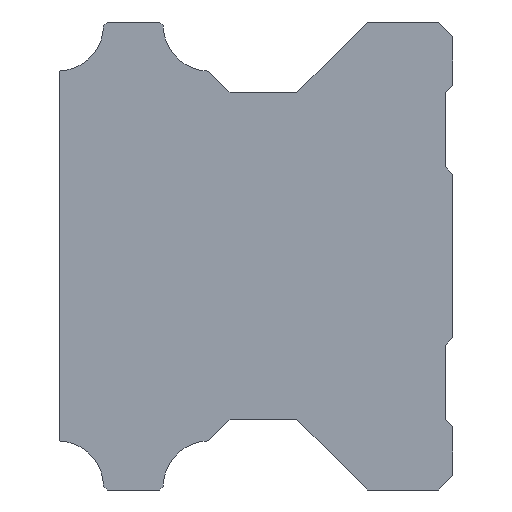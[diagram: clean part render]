
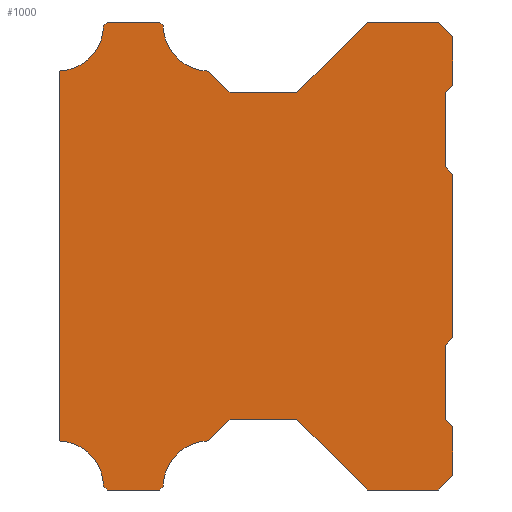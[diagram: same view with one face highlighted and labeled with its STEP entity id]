
A CAD part, left-side view. The second image highlights one B-rep face of the part: STEP entity #1000.
In plain terms, the highlighted planar face has unit normal (-1, 0, 0).
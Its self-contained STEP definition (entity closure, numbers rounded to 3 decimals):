
#51=CIRCLE('',#1067,6.19);
#53=CIRCLE('',#1073,6.19);
#64=CIRCLE('',#1086,6.19);
#66=CIRCLE('',#1092,6.19);
#254=ORIENTED_EDGE('',*,*,#338,.F.);
#255=ORIENTED_EDGE('',*,*,#444,.F.);
#256=ORIENTED_EDGE('',*,*,#441,.F.);
#257=ORIENTED_EDGE('',*,*,#438,.F.);
#258=ORIENTED_EDGE('',*,*,#435,.T.);
#259=ORIENTED_EDGE('',*,*,#432,.F.);
#260=ORIENTED_EDGE('',*,*,#429,.F.);
#261=ORIENTED_EDGE('',*,*,#426,.F.);
#262=ORIENTED_EDGE('',*,*,#423,.T.);
#263=ORIENTED_EDGE('',*,*,#420,.F.);
#264=ORIENTED_EDGE('',*,*,#408,.T.);
#265=ORIENTED_EDGE('',*,*,#405,.F.);
#266=ORIENTED_EDGE('',*,*,#402,.F.);
#267=ORIENTED_EDGE('',*,*,#399,.F.);
#268=ORIENTED_EDGE('',*,*,#396,.T.);
#269=ORIENTED_EDGE('',*,*,#393,.F.);
#270=ORIENTED_EDGE('',*,*,#390,.F.);
#271=ORIENTED_EDGE('',*,*,#387,.F.);
#272=ORIENTED_EDGE('',*,*,#384,.F.);
#273=ORIENTED_EDGE('',*,*,#381,.F.);
#274=ORIENTED_EDGE('',*,*,#378,.F.);
#275=ORIENTED_EDGE('',*,*,#375,.F.);
#276=ORIENTED_EDGE('',*,*,#372,.F.);
#277=ORIENTED_EDGE('',*,*,#369,.F.);
#278=ORIENTED_EDGE('',*,*,#366,.F.);
#279=ORIENTED_EDGE('',*,*,#354,.F.);
#280=ORIENTED_EDGE('',*,*,#351,.F.);
#281=ORIENTED_EDGE('',*,*,#348,.F.);
#282=ORIENTED_EDGE('',*,*,#345,.F.);
#283=ORIENTED_EDGE('',*,*,#342,.F.);
#338=EDGE_CURVE('',#464,#465,#560,.T.);
#342=EDGE_CURVE('',#465,#468,#564,.T.);
#345=EDGE_CURVE('',#468,#470,#567,.T.);
#348=EDGE_CURVE('',#470,#472,#570,.T.);
#351=EDGE_CURVE('',#472,#474,#573,.T.);
#354=EDGE_CURVE('',#474,#476,#576,.T.);
#366=EDGE_CURVE('',#476,#487,#579,.T.);
#369=EDGE_CURVE('',#487,#489,#582,.T.);
#372=EDGE_CURVE('',#489,#491,#585,.T.);
#375=EDGE_CURVE('',#491,#493,#588,.T.);
#378=EDGE_CURVE('',#493,#495,#591,.T.);
#381=EDGE_CURVE('',#495,#497,#594,.T.);
#384=EDGE_CURVE('',#497,#499,#597,.T.);
#387=EDGE_CURVE('',#499,#501,#600,.T.);
#390=EDGE_CURVE('',#501,#503,#603,.T.);
#393=EDGE_CURVE('',#503,#505,#606,.T.);
#396=EDGE_CURVE('',#507,#505,#51,.T.);
#399=EDGE_CURVE('',#507,#509,#610,.T.);
#402=EDGE_CURVE('',#509,#511,#613,.T.);
#405=EDGE_CURVE('',#511,#513,#616,.T.);
#408=EDGE_CURVE('',#515,#513,#53,.T.);
#420=EDGE_CURVE('',#515,#526,#620,.T.);
#423=EDGE_CURVE('',#528,#526,#64,.T.);
#426=EDGE_CURVE('',#528,#530,#624,.T.);
#429=EDGE_CURVE('',#530,#532,#627,.T.);
#432=EDGE_CURVE('',#532,#534,#630,.T.);
#435=EDGE_CURVE('',#536,#534,#66,.T.);
#438=EDGE_CURVE('',#536,#538,#634,.T.);
#441=EDGE_CURVE('',#538,#540,#637,.T.);
#444=EDGE_CURVE('',#540,#464,#640,.T.);
#464=VERTEX_POINT('',#1437);
#465=VERTEX_POINT('',#1438);
#468=VERTEX_POINT('',#1446);
#470=VERTEX_POINT('',#1452);
#472=VERTEX_POINT('',#1458);
#474=VERTEX_POINT('',#1464);
#476=VERTEX_POINT('',#1470);
#487=VERTEX_POINT('',#1494);
#489=VERTEX_POINT('',#1500);
#491=VERTEX_POINT('',#1506);
#493=VERTEX_POINT('',#1512);
#495=VERTEX_POINT('',#1518);
#497=VERTEX_POINT('',#1524);
#499=VERTEX_POINT('',#1530);
#501=VERTEX_POINT('',#1536);
#503=VERTEX_POINT('',#1542);
#505=VERTEX_POINT('',#1548);
#507=VERTEX_POINT('',#1554);
#509=VERTEX_POINT('',#1560);
#511=VERTEX_POINT('',#1566);
#513=VERTEX_POINT('',#1572);
#515=VERTEX_POINT('',#1578);
#526=VERTEX_POINT('',#1602);
#528=VERTEX_POINT('',#1608);
#530=VERTEX_POINT('',#1614);
#532=VERTEX_POINT('',#1620);
#534=VERTEX_POINT('',#1626);
#536=VERTEX_POINT('',#1632);
#538=VERTEX_POINT('',#1638);
#540=VERTEX_POINT('',#1644);
#560=LINE('',#1436,#642);
#564=LINE('',#1445,#646);
#567=LINE('',#1451,#649);
#570=LINE('',#1457,#652);
#573=LINE('',#1463,#655);
#576=LINE('',#1469,#658);
#579=LINE('',#1493,#661);
#582=LINE('',#1499,#664);
#585=LINE('',#1505,#667);
#588=LINE('',#1511,#670);
#591=LINE('',#1517,#673);
#594=LINE('',#1523,#676);
#597=LINE('',#1529,#679);
#600=LINE('',#1535,#682);
#603=LINE('',#1541,#685);
#606=LINE('',#1547,#688);
#610=LINE('',#1559,#692);
#613=LINE('',#1565,#695);
#616=LINE('',#1571,#698);
#620=LINE('',#1601,#702);
#624=LINE('',#1613,#706);
#627=LINE('',#1619,#709);
#630=LINE('',#1625,#712);
#634=LINE('',#1637,#716);
#637=LINE('',#1643,#719);
#640=LINE('',#1649,#722);
#642=VECTOR('',#1148,1000.);
#646=VECTOR('',#1154,1000.);
#649=VECTOR('',#1159,1000.);
#652=VECTOR('',#1164,1000.);
#655=VECTOR('',#1169,1000.);
#658=VECTOR('',#1174,1000.);
#661=VECTOR('',#1197,1000.);
#664=VECTOR('',#1202,1000.);
#667=VECTOR('',#1207,1000.);
#670=VECTOR('',#1212,1000.);
#673=VECTOR('',#1217,1000.);
#676=VECTOR('',#1222,1000.);
#679=VECTOR('',#1227,1000.);
#682=VECTOR('',#1232,1000.);
#685=VECTOR('',#1237,1000.);
#688=VECTOR('',#1242,1000.);
#692=VECTOR('',#1254,1000.);
#695=VECTOR('',#1259,1000.);
#698=VECTOR('',#1264,1000.);
#702=VECTOR('',#1294,1000.);
#706=VECTOR('',#1306,1000.);
#709=VECTOR('',#1311,1000.);
#712=VECTOR('',#1316,1000.);
#716=VECTOR('',#1328,1000.);
#719=VECTOR('',#1333,1000.);
#722=VECTOR('',#1338,1000.);
#773=EDGE_LOOP('',(#254,#255,#256,#257,#258,#259,#260,#261,#262,#263,#264,
#265,#266,#267,#268,#269,#270,#271,#272,#273,#274,#275,#276,#277,#278,#279,
#280,#281,#282,#283));
#877=FACE_BOUND('',#773,.T.);
#959=PLANE('',#1098);
#1000=ADVANCED_FACE('',(#877),#959,.F.);
#1067=AXIS2_PLACEMENT_3D('',#1553,#1247,#1248);
#1073=AXIS2_PLACEMENT_3D('',#1577,#1269,#1270);
#1086=AXIS2_PLACEMENT_3D('',#1607,#1299,#1300);
#1092=AXIS2_PLACEMENT_3D('',#1631,#1321,#1322);
#1098=AXIS2_PLACEMENT_3D('',#1652,#1342,#1343);
#1148=DIRECTION('',(0.,-1.,0.));
#1154=DIRECTION('',(0.,-0.707,-0.707));
#1159=DIRECTION('',(0.,0.,-1.));
#1164=DIRECTION('',(0.,0.707,-0.707));
#1169=DIRECTION('',(0.,0.,-1.));
#1174=DIRECTION('',(0.,-0.707,-0.707));
#1197=DIRECTION('',(0.,0.,-1.));
#1202=DIRECTION('',(0.,0.707,-0.707));
#1207=DIRECTION('',(0.,0.,-1.));
#1212=DIRECTION('',(0.,-0.707,-0.707));
#1217=DIRECTION('',(0.,0.,-1.));
#1222=DIRECTION('',(0.,0.707,-0.707));
#1227=DIRECTION('',(0.,1.,0.));
#1232=DIRECTION('',(0.,0.707,0.707));
#1237=DIRECTION('',(0.,1.,0.));
#1242=DIRECTION('',(0.,0.707,-0.707));
#1247=DIRECTION('',(1.,0.,0.));
#1248=DIRECTION('',(0.,0.,-1.));
#1254=DIRECTION('',(0.,0.707,-0.707));
#1259=DIRECTION('',(0.,1.,0.));
#1264=DIRECTION('',(0.,0.707,0.707));
#1269=DIRECTION('',(1.,0.,0.));
#1270=DIRECTION('',(0.,0.,-1.));
#1294=DIRECTION('',(0.,0.,1.));
#1299=DIRECTION('',(1.,0.,0.));
#1300=DIRECTION('',(0.,0.,-1.));
#1306=DIRECTION('',(0.,-0.707,0.707));
#1311=DIRECTION('',(0.,-1.,0.));
#1316=DIRECTION('',(0.,-0.707,-0.707));
#1321=DIRECTION('',(1.,0.,0.));
#1322=DIRECTION('',(0.,0.,-1.));
#1328=DIRECTION('',(0.,-0.707,-0.707));
#1333=DIRECTION('',(0.,-1.,0.));
#1338=DIRECTION('',(0.,-0.707,0.707));
#1342=DIRECTION('',(1.,0.,0.));
#1343=DIRECTION('',(0.,0.,-1.));
#1436=CARTESIAN_POINT('',(-35.,11.501,31.5));
#1437=CARTESIAN_POINT('',(-35.,11.501,31.5));
#1438=CARTESIAN_POINT('',(-35.,2.,31.5));
#1445=CARTESIAN_POINT('',(-35.,2.,31.5));
#1446=CARTESIAN_POINT('',(-35.,0.,29.5));
#1451=CARTESIAN_POINT('',(-35.,0.,29.5));
#1452=CARTESIAN_POINT('',(-35.,0.,23.));
#1457=CARTESIAN_POINT('',(-35.,0.,23.));
#1458=CARTESIAN_POINT('',(-35.,1.,22.));
#1463=CARTESIAN_POINT('',(-35.,1.,22.));
#1464=CARTESIAN_POINT('',(-35.,1.,12.));
#1469=CARTESIAN_POINT('',(-35.,1.,12.));
#1470=CARTESIAN_POINT('',(-35.,0.,11.));
#1493=CARTESIAN_POINT('',(-35.,0.,11.));
#1494=CARTESIAN_POINT('',(-35.,0.,-11.));
#1499=CARTESIAN_POINT('',(-35.,0.,-11.));
#1500=CARTESIAN_POINT('',(-35.,1.,-12.));
#1505=CARTESIAN_POINT('',(-35.,1.,-12.));
#1506=CARTESIAN_POINT('',(-35.,1.,-22.));
#1511=CARTESIAN_POINT('',(-35.,1.,-22.));
#1512=CARTESIAN_POINT('',(-35.,0.,-23.));
#1517=CARTESIAN_POINT('',(-35.,0.,-23.));
#1518=CARTESIAN_POINT('',(-35.,0.,-29.5));
#1523=CARTESIAN_POINT('',(-35.,0.,-29.5));
#1524=CARTESIAN_POINT('',(-35.,2.,-31.5));
#1529=CARTESIAN_POINT('',(-35.,2.,-31.5));
#1530=CARTESIAN_POINT('',(-35.,11.501,-31.5));
#1535=CARTESIAN_POINT('',(-35.,11.501,-31.5));
#1536=CARTESIAN_POINT('',(-35.,21.,-22.));
#1541=CARTESIAN_POINT('',(-35.,21.,-22.));
#1542=CARTESIAN_POINT('',(-35.,29.999,-22.));
#1547=CARTESIAN_POINT('',(-35.,29.999,-22.));
#1548=CARTESIAN_POINT('',(-35.,32.887,-24.888));
#1553=CARTESIAN_POINT('',(-35.,32.79,-31.077));
#1554=CARTESIAN_POINT('',(-35.,38.979,-30.981));
#1559=CARTESIAN_POINT('',(-35.,38.979,-30.981));
#1560=CARTESIAN_POINT('',(-35.,39.499,-31.5));
#1565=CARTESIAN_POINT('',(-35.,39.499,-31.5));
#1566=CARTESIAN_POINT('',(-35.,46.501,-31.5));
#1571=CARTESIAN_POINT('',(-35.,46.501,-31.5));
#1572=CARTESIAN_POINT('',(-35.,47.022,-30.979));
#1577=CARTESIAN_POINT('',(-35.,53.211,-31.077));
#1578=CARTESIAN_POINT('',(-35.,53.,-24.891));
#1601=CARTESIAN_POINT('',(-35.,53.,-24.891));
#1602=CARTESIAN_POINT('',(-35.,53.,24.891));
#1607=CARTESIAN_POINT('',(-35.,53.211,31.077));
#1608=CARTESIAN_POINT('',(-35.,47.022,30.979));
#1613=CARTESIAN_POINT('',(-35.,47.022,30.979));
#1614=CARTESIAN_POINT('',(-35.,46.501,31.5));
#1619=CARTESIAN_POINT('',(-35.,46.501,31.5));
#1620=CARTESIAN_POINT('',(-35.,39.499,31.5));
#1625=CARTESIAN_POINT('',(-35.,39.499,31.5));
#1626=CARTESIAN_POINT('',(-35.,38.979,30.981));
#1631=CARTESIAN_POINT('',(-35.,32.79,31.077));
#1632=CARTESIAN_POINT('',(-35.,32.887,24.888));
#1637=CARTESIAN_POINT('',(-35.,32.887,24.888));
#1638=CARTESIAN_POINT('',(-35.,29.999,22.));
#1643=CARTESIAN_POINT('',(-35.,29.999,22.));
#1644=CARTESIAN_POINT('',(-35.,21.,22.));
#1649=CARTESIAN_POINT('',(-35.,21.,22.));
#1652=CARTESIAN_POINT('',(-35.,32.79,-31.077));
